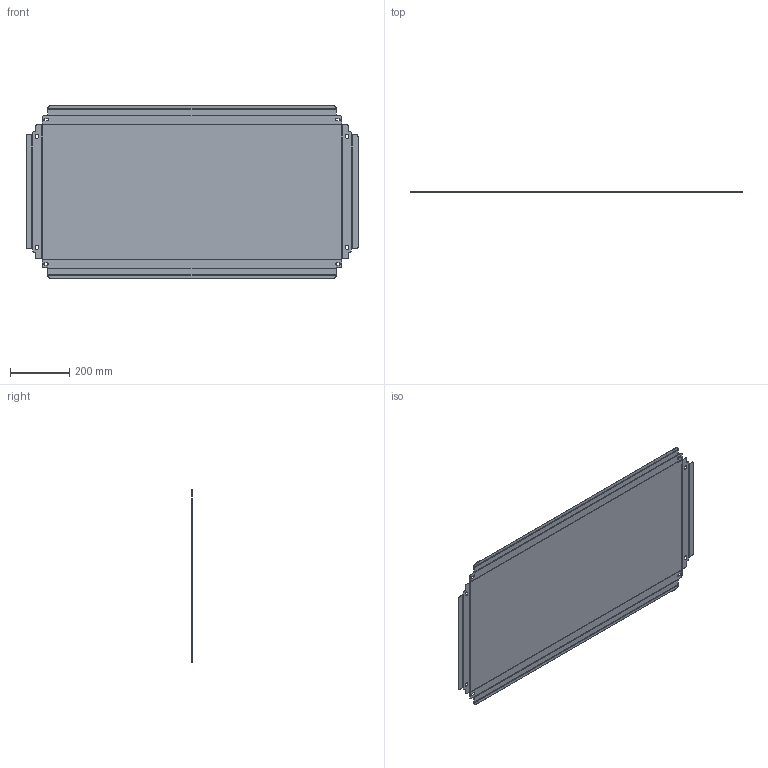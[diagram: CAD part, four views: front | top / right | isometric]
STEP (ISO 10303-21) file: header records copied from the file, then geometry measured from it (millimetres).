
FILE_DESCRIPTION(/* description */ ('Alibre Inc.'),/* implementation_level */ '2;1');
FILE_NAME(/* name */ 'export-CC2F32AA-A4A5-41BC-A318-CE8DD3C34D1E',/* time_stamp */ '2022-04-19T13:23:18-05:00',/* author */ (''),/* organization */ (''),/* preprocessor_version */ 'ST-DEVELOPER v17',/* originating_system */ 'Alibre',/* authorisation */ '');
FILE_SCHEMA (('AUTOMOTIVE_DESIGN'));
Length unit declared in the file: centimetre
Bounding box: 1121.68 x 0.79 x 583.44 mm (x, y, z)
Volume: 498089 mm3; surface area: 1268048.6 mm2
Topology: 1 solids, 1 shells, 170 faces, 424 edges, 256 vertices
Faces by surface type: plane 134, cylinder 36
Entity records: 4785 total; most frequent: ORIENTED_EDGE 848, CARTESIAN_POINT 838, DIRECTION 690, EDGE_CURVE 424, VECTOR 344, LINE 344, VERTEX_POINT 256, AXIS2_PLACEMENT_3D 238
